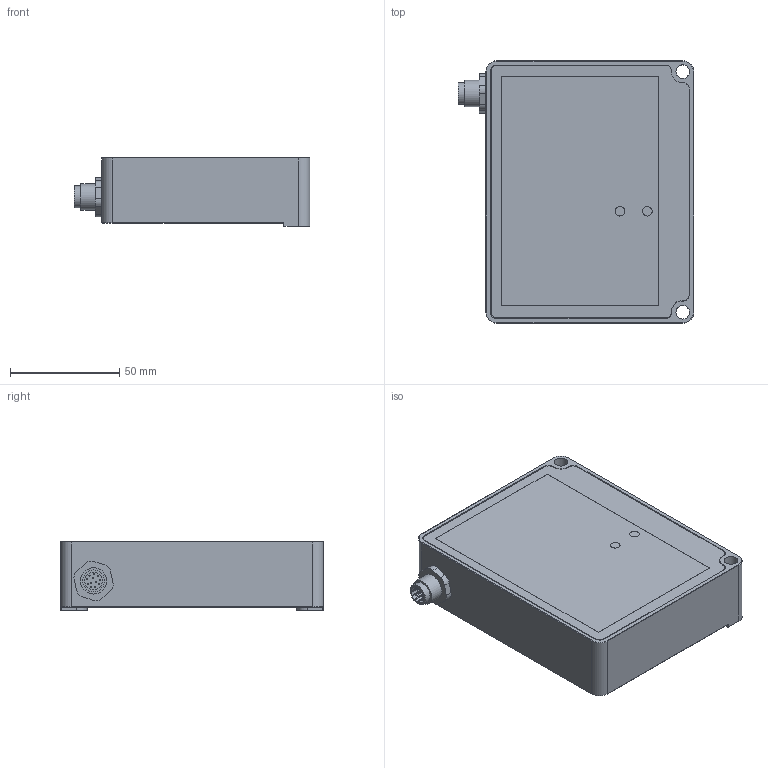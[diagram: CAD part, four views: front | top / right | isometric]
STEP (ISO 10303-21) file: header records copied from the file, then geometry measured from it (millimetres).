
FILE_DESCRIPTION((''),'2;1');
FILE_NAME('Z:\udvikling\Inventor Tegninger\Produktions Tegninger\7000 GREYLINE\Step Files for Homepage\Step Files for Grey-Line\Step File Grey-Line 3D DSE.stp','2017-03-24T01:49:05',('Peter'),(''),'Autodesk Inventor 2008','Autodesk Inventor 2008','');
FILE_SCHEMA(('AUTOMOTIVE_DESIGN { 1 0 10303 214 1 1 1 1 }'));
Length unit declared in the file: millimetre
Products named in the file (7): Assembly Grey-Line 3D DSE; 7000-13 GreyLine House; 7001-03 Låg; LABEL Black-Line DSE; M12 12pol Connector; 7004-01 Greyline Frontglas Ø18; Frontglas Laser
Assembly tree (6 placements, depth 2):
  Assembly Grey-Line 3D DSE
    7000-13 GreyLine House
    7001-03 Låg
    LABEL Black-Line DSE
    M12 12pol Connector
    7004-01 Greyline Frontglas Ø18
    Frontglas Laser
Bounding box: 107.6 x 120 x 31.5 mm (x, y, z)
Volume: 78416.9 mm3; surface area: 86635.3 mm2
Topology: 6 solids, 6 shells, 184 faces, 439 edges, 288 vertices
Faces by surface type: plane 93, cylinder 75, bspline 10, cone 6
Full cylindrical faces by diameter (mm): 0.5 x12, 6.2 x2, 7 x2, 8 x1, 10 x1, 11.8 x1, 12 x2, 13.778 x1, 15.5 x1, 16 x1, 18 x1
Entity records: 5567 total; most frequent: CARTESIAN_POINT 1035, DIRECTION 951, ORIENTED_EDGE 802, EDGE_CURVE 401, AXIS2_PLACEMENT_3D 364, VERTEX_POINT 280, EDGE_LOOP 249, VECTOR 223
